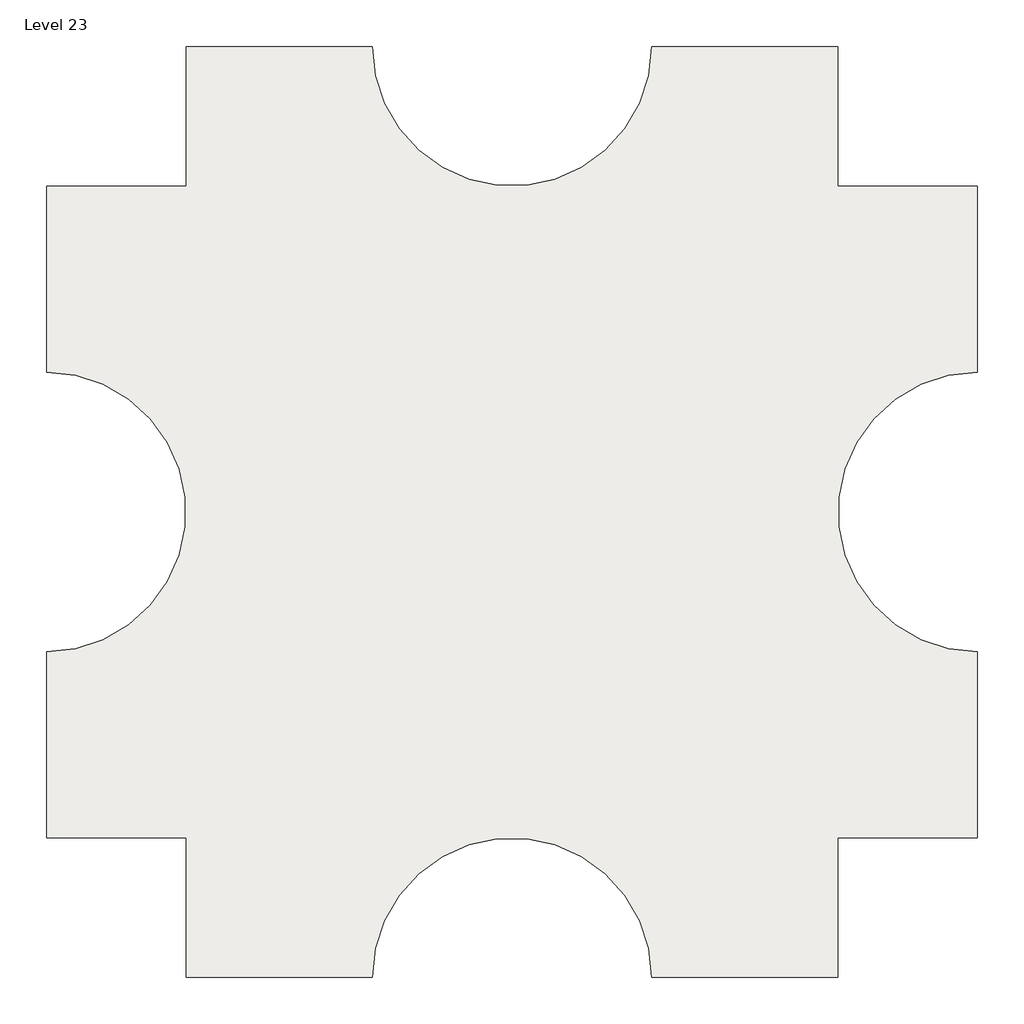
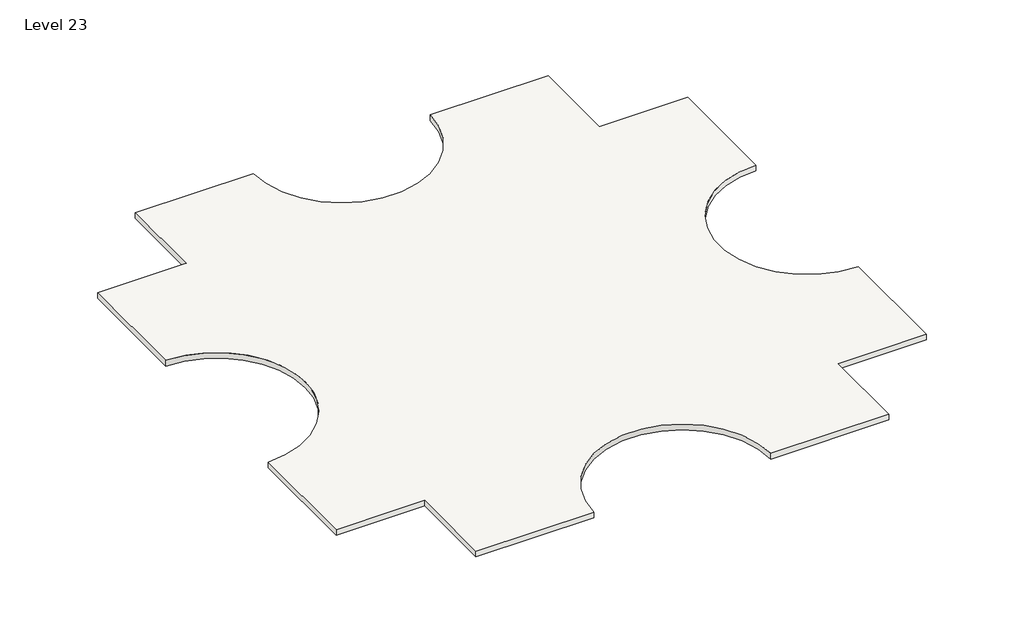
# One storey: 1 slab.
"""IFC4 building model written with IfcOpenShell, lengths in millimetres."""

import ifcopenshell
import ifcopenshell.guid

model = None  # the IFC model being written
_history = None  # IfcOwnerHistory: only IFC2X3 demands one
_inside = {}  # id of a spatial element -> (the spatial element, [elements in it])
_under = {}  # id of a project, library or spatial element -> (it, [spatial elements below it])
_declared = {}  # id of a project -> (the project, [libraries it declares])
_typed = {}  # id of a type object -> (the type object, [elements of that type])
_made_of = {}  # id of a material, layer set ... -> (it, [elements and type objects made of it])


def new_model(schema):
    """Start an empty IFC model of exactly this schema.

    Asked for "IFC4X3", IfcOpenShell would pick the latest addendum, in which some entities
    have other attributes; the version numbers below select the first issue.
    IFC2X3 requires an IfcOwnerHistory on every rooted entity: one is made here for all.
    """
    global model, _history
    if schema == "IFC4X3":
        model = ifcopenshell.file(schema_version=(4, 3, 0, 0))
    else:
        model = ifcopenshell.file(schema=schema)
    _inside.clear()
    _under.clear()
    _declared.clear()
    _typed.clear()
    _made_of.clear()
    _history = None
    if model.schema == "IFC2X3":
        org = make("IfcOrganization", Name="unknown")
        user = make(
            "IfcPersonAndOrganization",
            ThePerson=make("IfcPerson", FamilyName="unknown"),
            TheOrganization=org,
        )
        app = make(
            "IfcApplication",
            ApplicationDeveloper=org,
            Version="unknown",
            ApplicationFullName="unknown",
            ApplicationIdentifier="unknown",
        )
        _history = make(
            "IfcOwnerHistory",
            OwningUser=user,
            OwningApplication=app,
            ChangeAction="ADDED",
            CreationDate=0,
        )
    return model


def make(cls, **values):
    """One entity of the class cls with the attributes given. An attribute that is None is left unset."""
    return model.create_entity(
        cls, **{name: value for name, value in values.items() if value is not None}
    )


def rooted(cls, **values):
    """An entity with a GlobalId (a new one), such as an element, a storey or a relation."""
    return make(cls, GlobalId=ifcopenshell.guid.new(), OwnerHistory=_history, **values)


def si_unit(unit_type, name, prefix=None):
    """IfcSIUnit, for example si_unit("LENGTHUNIT", "METRE", prefix="MILLI")."""
    return make("IfcSIUnit", UnitType=unit_type, Prefix=prefix, Name=name)


def assignment(units):
    """IfcUnitAssignment: the units of a project."""
    return None if units is None else make("IfcUnitAssignment", Units=units)


def point(xyz):
    """IfcCartesianPoint."""
    return None if xyz is None else make("IfcCartesianPoint", Coordinates=xyz)


def direction(xyz):
    """IfcDirection."""
    return None if xyz is None else make("IfcDirection", DirectionRatios=xyz)


def frame(location, z_axis=None, x_axis=None):
    """IfcAxis2Placement3D, a coordinate frame: its origin and axes. An axis left out is left unset."""
    return make(
        "IfcAxis2Placement3D",
        Location=point(location),
        Axis=direction(z_axis),
        RefDirection=direction(x_axis),
    )


def frame_2d(location, x_axis=None):
    """IfcAxis2Placement2D, a coordinate frame in the plane: its origin and x axis."""
    return make(
        "IfcAxis2Placement2D", Location=point(location), RefDirection=direction(x_axis)
    )


def origin():
    """The frame at (0, 0, 0) with its axes left unset."""
    return frame((0.0, 0.0, 0.0))


def place(relative_to, where):
    """IfcLocalPlacement: puts the frame where relative to a parent placement (None: the world)."""
    return make(
        "IfcLocalPlacement", PlacementRelTo=relative_to, RelativePlacement=where
    )


def context(
    kind, dimensions, precision=None, world=None, true_north=None, identifier=None
):
    """IfcGeometricRepresentationContext, for example the 3D "Model" context."""
    return make(
        "IfcGeometricRepresentationContext",
        ContextIdentifier=identifier,
        ContextType=kind,
        CoordinateSpaceDimension=dimensions,
        Precision=precision,
        WorldCoordinateSystem=world,
        TrueNorth=true_north,
    )


def project(units=None, contexts=None):
    """IfcProject with its units and contexts."""
    return rooted(
        "IfcProject",
        Name="project",
        RepresentationContexts=contexts,
        UnitsInContext=assignment(units),
    )


def spatial(cls, under=None, at=None, **own):
    """A site, building, storey or space (cls), placed at a placement, below another one or the project."""
    s = rooted(cls, ObjectPlacement=at, **own)
    if under is not None:
        _under.setdefault(under.id(), (under, []))[1].append(s)
    return s


def polyline(points):
    """IfcPolyline through the points."""
    return make("IfcPolyline", Points=[point(p) for p in points])


def circle_curve(where, radius):
    """IfcCircle in the frame where."""
    return make("IfcCircle", Position=where, Radius=radius)


def trimmed(basis, trim1, trim2, sense, master):
    """IfcTrimmedCurve: the piece of a basis curve between two trims."""
    return make(
        "IfcTrimmedCurve",
        BasisCurve=basis,
        Trim1=trim1,
        Trim2=trim2,
        SenseAgreement=sense,
        MasterRepresentation=master,
    )


def segment(curve, same_sense, transition):
    """IfcCompositeCurveSegment."""
    return make(
        "IfcCompositeCurveSegment",
        Transition=transition,
        SameSense=same_sense,
        ParentCurve=curve,
    )


def composite_curve(segments, self_intersect=None):
    """IfcCompositeCurve: segments joined end to end."""
    return make("IfcCompositeCurve", Segments=segments, SelfIntersect=self_intersect)


def outline(outer, holes=None, kind="AREA"):
    """IfcArbitraryClosedProfileDef: a profile drawn as a closed curve; with holes, ...WithVoids."""
    if holes is None:
        return make("IfcArbitraryClosedProfileDef", ProfileType=kind, OuterCurve=outer)
    return make(
        "IfcArbitraryProfileDefWithVoids",
        ProfileType=kind,
        OuterCurve=outer,
        InnerCurves=holes,
    )


def extrude(swept, where, along, depth):
    """IfcExtrudedAreaSolid: the profile swept, set in the frame where, extruded along a direction by depth."""
    return make(
        "IfcExtrudedAreaSolid",
        SweptArea=swept,
        Position=where,
        ExtrudedDirection=direction(along),
        Depth=depth,
    )


def shape(context_of_items, identifier, shape_type, items):
    """IfcShapeRepresentation: the items that make up one representation, for example the "Body"."""
    return make(
        "IfcShapeRepresentation",
        ContextOfItems=context_of_items,
        RepresentationIdentifier=identifier,
        RepresentationType=shape_type,
        Items=items,
    )


def made_of(thing, what):
    """Note that an element or type object is made of a material, layer set ...; save() writes the relation."""
    if what is not None:
        _made_of.setdefault(what.id(), (what, []))[1].append(thing)
    return thing


def element(
    cls,
    number,
    at=None,
    inside=None,
    cuts=None,
    type_object=None,
    material=None,
    context=None,
    identifier="Body",
    shape_type=None,
    held_by="IfcProductDefinitionShape",
    body=None,
    shapes=None,
    **own,
):
    """One element of the class cls, such as IfcWall. Its Tag is "e" and its number.

    at: its placement. inside: the storey or other place that contains it. cuts: it is an
    opening in that element (IfcRelVoidsElement). A single representation is given by context,
    identifier, shape_type and body (its items); several are given by shapes. held_by: the class
    of the entity that holds the representations. save() writes the other relations.
    """
    e = rooted(cls, Tag="e%d" % number, ObjectPlacement=at, **own)
    if body is not None:
        shapes = [shape(context, identifier, shape_type, body)]
    if shapes is not None:
        e.Representation = make(held_by, Representations=shapes)
    if inside is not None:
        _inside.setdefault(inside.id(), (inside, []))[1].append(e)
    if cuts is not None:
        rooted(
            "IfcRelVoidsElement", RelatingBuildingElement=cuts, RelatedOpeningElement=e
        )
    if type_object is not None:
        _typed.setdefault(type_object.id(), (type_object, []))[1].append(e)
    return made_of(e, material)


def aggregate(whole, parts):
    """IfcRelAggregates: a whole, such as a stair, and the parts it consists of."""
    return rooted("IfcRelAggregates", RelatingObject=whole, RelatedObjects=parts)


def save(model, path):
    """Write the relations noted so far, then the file.

    IfcRelAggregates (storeys below a building ...), IfcRelContainedInSpatialStructure (elements
    in a storey), IfcRelDefinesByType, IfcRelAssociatesMaterial and IfcRelDeclares: one each for
    every whole, place, type object, material and project.
    """
    for whole, parts in _under.values():
        aggregate(whole, parts)
    for where, things in _inside.values():
        rooted(
            "IfcRelContainedInSpatialStructure",
            RelatedElements=things,
            RelatingStructure=where,
        )
    for kind, things in _typed.values():
        rooted("IfcRelDefinesByType", RelatedObjects=things, RelatingType=kind)
    for what, things in _made_of.values():
        rooted("IfcRelAssociatesMaterial", RelatedObjects=things, RelatingMaterial=what)
    for by, libraries in _declared.values():
        rooted("IfcRelDeclares", RelatingContext=by, RelatedDefinitions=libraries)
    model.write(path)


model = new_model("IFC4")

# Units and contexts
model_context = context("Model", 3, world=origin())
ifc_project = project(units=[si_unit("LENGTHUNIT", "METRE", prefix="MILLI")], contexts=[model_context])

# Site, building, storey
site = spatial("IfcSite", under=ifc_project)
building = spatial("IfcBuilding", under=site)
storey = spatial("IfcBuildingStorey", under=building, Name="Level 23", Elevation=67056.0)

# Slab
placement = place(None, origin())
element("IfcSlab", 1, ObjectType="Generic - 12\"", at=placement, inside=storey, context=model_context, shape_type="SweptSolid", body=[
    extrude(outline(composite_curve([segment(polyline([(-7150.3629456, 4479.6634547), (-7150.3629456, 9051.6634547), (-1054.3629456, 9051.6634547)]), True, "CONTINUOUS"), segment(trimmed(circle_curve(frame_2d((3517.6370544, 9051.6634547)), 4572.0), [point((-1054.3629456, 9051.6634547))], [point((8089.6370544, 9051.6634547))], True, "CARTESIAN"), True, "CONTINUOUS"), segment(polyline([(8089.6370544, 9051.6634547), (14185.6370544, 9051.6634547), (14185.6370544, 4479.6634547), (18757.6370544, 4479.6634547), (18757.6370544, -1616.3365453)]), True, "CONTINUOUS"), segment(trimmed(circle_curve(frame_2d((18757.6370544, -6188.3365453)), 4572.0), [point((18757.6370544, -1616.3365453))], [point((18757.6370544, -10760.3365453))], True, "CARTESIAN"), True, "CONTINUOUS"), segment(polyline([(18757.6370544, -10760.3365453), (18757.6370544, -16856.3365453), (14185.6370544, -16856.3365453), (14185.6370544, -21428.3365453), (8089.6370544, -21428.3365453)]), True, "CONTINUOUS"), segment(trimmed(circle_curve(frame_2d((3517.6370544, -21428.3365453)), 4572.0), [point((8089.6370544, -21428.3365453))], [point((-1054.3629456, -21428.3365453))], True, "CARTESIAN"), True, "CONTINUOUS"), segment(polyline([(-1054.3629456, -21428.3365453), (-7150.3629456, -21428.3365453), (-7150.3629456, -16856.3365453), (-11722.3629456, -16856.3365453), (-11722.3629456, -10760.3365453)]), True, "CONTINUOUS"), segment(trimmed(circle_curve(frame_2d((-11722.3629456, -6188.3365453)), 4572.0), [point((-11722.3629456, -10760.3365453))], [point((-11722.3629456, -1616.3365453))], True, "CARTESIAN"), True, "CONTINUOUS"), segment(polyline([(-11722.3629456, -1616.3365453), (-11722.3629456, 4479.6634547), (-7150.3629456, 4479.6634547)]), True, "CONTINUOUS")], self_intersect=False)), frame((0.0, 0.0, 66751.2), z_axis=(0.0, 0.0, 1.0), x_axis=(1.0, 0.0, 0.0)), (0.0, 0.0, 1.0), 304.8),
])

save(model, "model.ifc")
